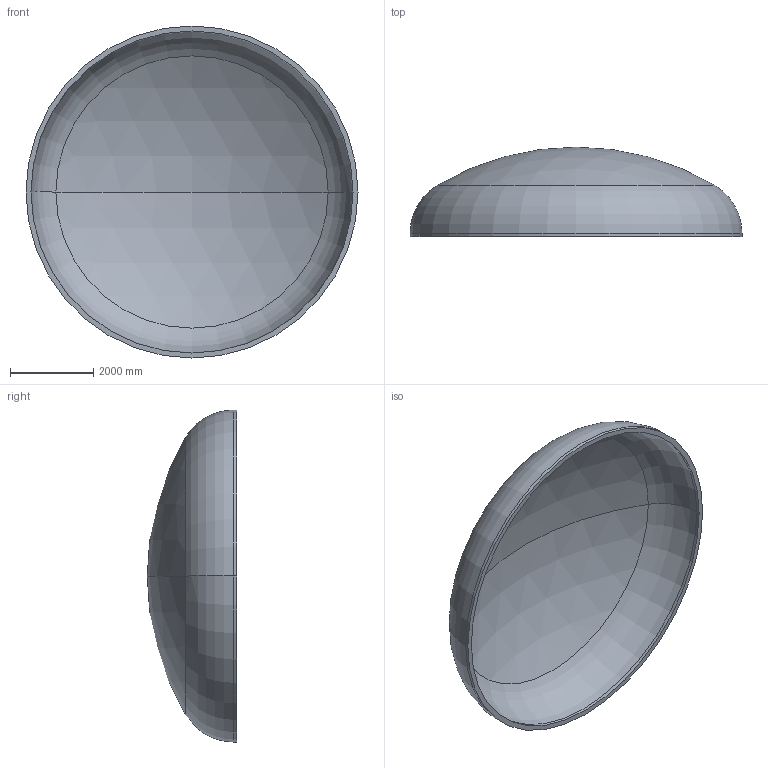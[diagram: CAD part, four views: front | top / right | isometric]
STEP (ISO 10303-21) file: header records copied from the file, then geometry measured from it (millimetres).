
FILE_DESCRIPTION (( 'STEP AP203' ), '1' );
FILE_NAME ('DIN 28013 Korbbogenform_-_Boden DIN 28013 - 8000 x 75 - I - s=120.step', '2016-07-04T11:06:16', ( '' ), ( '' ), 'SwSTEP 2.0', 'SolidWorks 2013', '' );
FILE_SCHEMA (( 'CONFIG_CONTROL_DESIGN' ));
Length unit declared in the file: millimetre
Products named in the file (1): DIN 28013 Korbbogenform_-_Boden DIN 28013 - 8000 x 75 - I - s=120
Bounding box: 8000 x 2155.81 x 8000 mm (x, y, z)
Volume: 8410358280.7 mm3; surface area: 143173433.4 mm2
Topology: 1 solids, 1 shells, 13 faces, 24 edges, 14 vertices
Faces by surface type: torus 4, cylinder 4, sphere 4, plane 1
Entity records: 407 total; most frequent: DIRECTION 72, CARTESIAN_POINT 52, ORIENTED_EDGE 48, AXIS2_PLACEMENT_3D 34, EDGE_CURVE 24, CIRCLE 20, VERTEX_POINT 14, EDGE_LOOP 14
